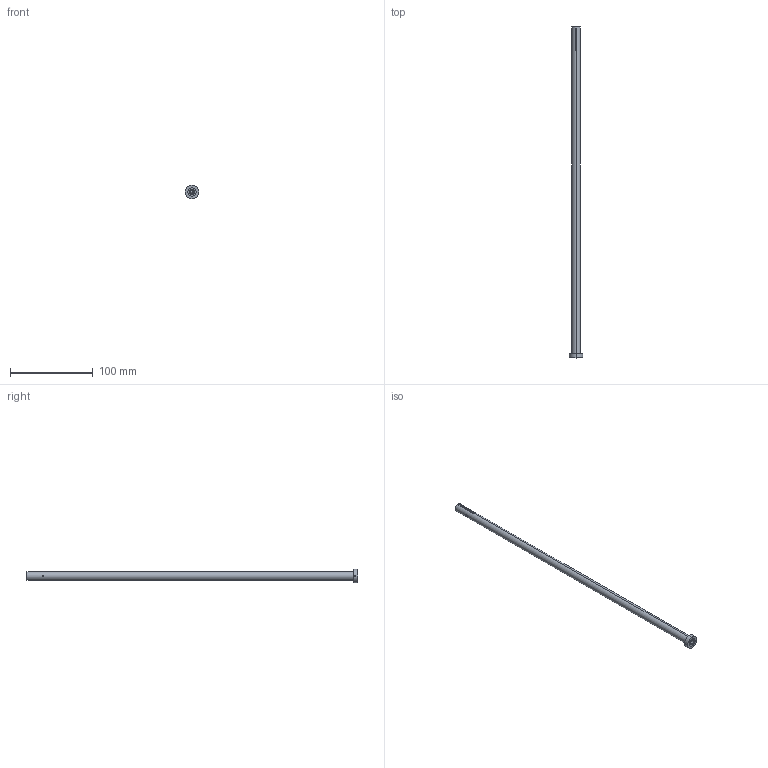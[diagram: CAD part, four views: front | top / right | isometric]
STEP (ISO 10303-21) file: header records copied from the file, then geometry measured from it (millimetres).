
FILE_DESCRIPTION (( 'STEP AP203' ), '1' );
FILE_NAME ('SGDE-1007Cx400.STEP', '2017-01-10T15:50:17', ( 'Balzi' ), ( '' ), 'SwSTEP 2.0', 'SolidWorks 2016', '' );
FILE_SCHEMA (( 'CONFIG_CONTROL_DESIGN' ));
Length unit declared in the file: millimetre
Products named in the file (1): SGDE-1007Cx400
Bounding box: 16 x 401.2 x 16 mm (x, y, z)
Volume: 20564.5 mm3; surface area: 21489.1 mm2
Topology: 1 solids, 1 shells, 86 faces, 238 edges, 156 vertices
Faces by surface type: cylinder 48, plane 32, cone 6
Entity records: 3359 total; most frequent: CARTESIAN_POINT 1081, ORIENTED_EDGE 476, DIRECTION 432, EDGE_CURVE 238, AXIS2_PLACEMENT_3D 159, VERTEX_POINT 156, LINE 114, VECTOR 114
